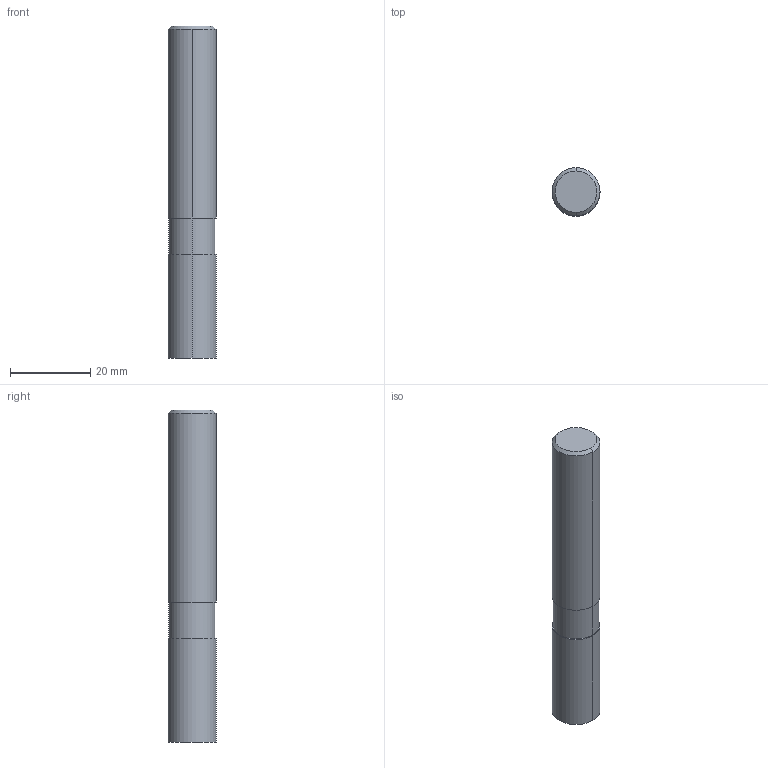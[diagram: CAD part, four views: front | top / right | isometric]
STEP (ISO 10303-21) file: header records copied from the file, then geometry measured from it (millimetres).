
FILE_DESCRIPTION((''),'2;1');
FILE_NAME('DIN4003_82_HEURO','2016-04-11T',('automc'),(''),'PRO/ENGINEER BY PARAMETRIC TECHNOLOGY CORPORATION, 2015280','PRO/ENGINEER BY PARAMETRIC TECHNOLOGY CORPORATION, 2015280','');
FILE_SCHEMA(('AUTOMOTIVE_DESIGN { 1 0 10303 214 1 1 1 1 }'));
Length unit declared in the file: millimetre
Products named in the file (1): DIN4003_82_HEURO
Bounding box: 12 x 12 x 83 mm (x, y, z)
Volume: 9292.5 mm3; surface area: 3341.1 mm2
Topology: 1 solids, 1 shells, 12 faces, 24 edges, 17 vertices
Faces by surface type: bspline 12
Entity records: 704 total; most frequent: CARTESIAN_POINT 219, DIRECTION 68, ORIENTED_EDGE 44, AXIS2_PLACEMENT_3D 26, PRESENTATION_STYLE_ASSIGNMENT 23, STYLED_ITEM 23, EDGE_CURVE 22, VECTOR 16
